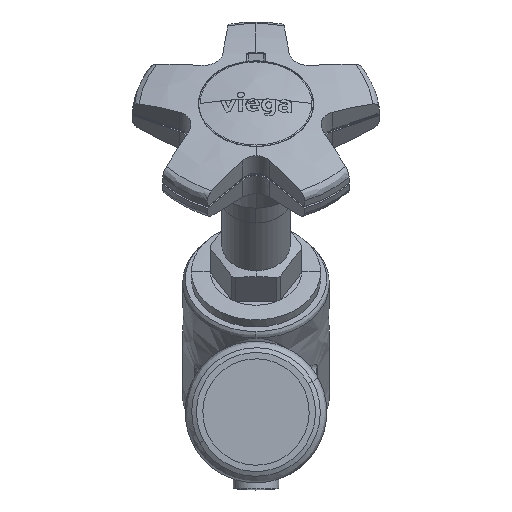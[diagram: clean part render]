
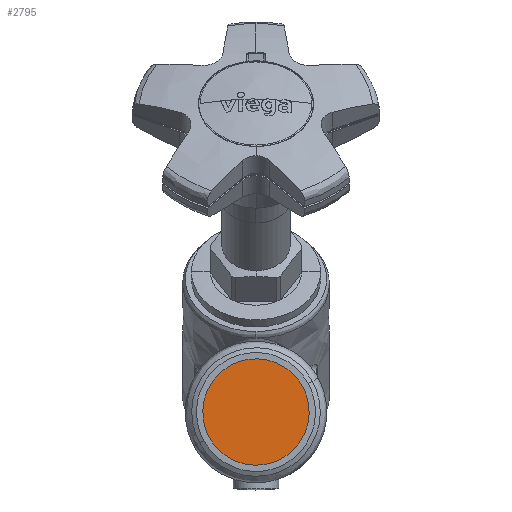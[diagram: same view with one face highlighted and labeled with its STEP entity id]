
A CAD part, front view. The second image highlights one B-rep face of the part: STEP entity #2795.
In plain terms, the highlighted free-form (B-spline) face has degree [1, 1] with [2, 2] control points.
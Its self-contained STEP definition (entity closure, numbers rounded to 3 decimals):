
#2795=ADVANCED_FACE('',(#7068),#7069,.T.);
#4571=VERTEX_POINT('',#9082);
#4575=VERTEX_POINT('',#9086);
#4577=EDGE_CURVE('',#4575,#4571,#9088,.T.);
#4581=EDGE_CURVE('',#4571,#4575,#9092,.T.);
#7068=FACE_OUTER_BOUND('',#17290,.T.);
#7069=B_SPLINE_SURFACE_WITH_KNOTS('',1,1,((#17291,#17292),(#17293,#17294)),.UNSPECIFIED.,.F.,.F.,.F.,(2,2),(2,2),(0.272,0.728),(0.313,0.687),.UNSPECIFIED.);
#9082=CARTESIAN_POINT('',(-18.429,-84.,-10.068));
#9086=CARTESIAN_POINT('',(18.429,-84.,10.068));
#9088=CIRCLE('',#25902,21.0);
#9092=CIRCLE('',#25909,21.0);
#17290=EDGE_LOOP('',(#31901,#31902));
#17291=CARTESIAN_POINT('',(-21.06,-84.,-21.06));
#17292=CARTESIAN_POINT('',(-21.06,-84.,21.06));
#17293=CARTESIAN_POINT('',(21.06,-84.,-21.06));
#17294=CARTESIAN_POINT('',(21.06,-84.,21.06));
#25902=AXIS2_PLACEMENT_3D('',#33672,#33673,#33674);
#25909=AXIS2_PLACEMENT_3D('',#33676,#33677,#33678);
#31901=ORIENTED_EDGE('',*,*,#4577,.T.);
#31902=ORIENTED_EDGE('',*,*,#4581,.T.);
#33672=CARTESIAN_POINT('',(0.,-84.,0.));
#33673=DIRECTION('',(0.,-1.0,0.));
#33674=DIRECTION('',(0.878,0.,0.479));
#33676=CARTESIAN_POINT('',(0.,-84.,0.));
#33677=DIRECTION('',(0.,-1.0,0.));
#33678=DIRECTION('',(-0.878,0.0,-0.479));
